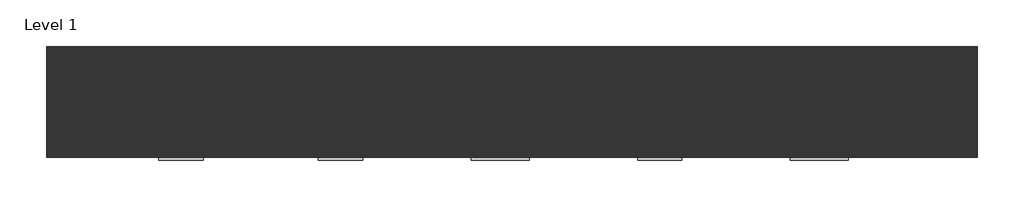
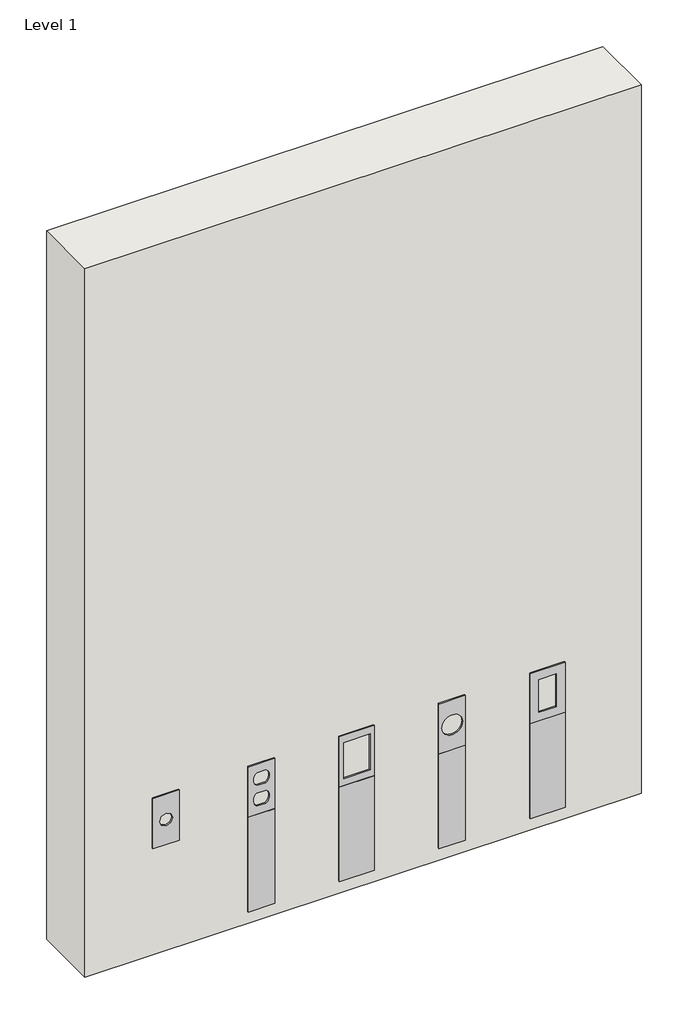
# One storey: 5 proxies, 1 wall.
"""IFC4 building model written with IfcOpenShell, lengths in millimetres."""

from ifc_helpers import new_model, si_unit, origin, origin_with_axes, place, context, project, spatial, polyline, outline, extrude, transform, mapped, element, save
from components import electrical_fixtures_99e873c0, electrical_fixtures_63e19a40, electrical_fixtures_1117c885, electrical_fixtures_fe14b728, electrical_fixtures_a7cb0436

model = new_model("IFC4")

# Units and contexts
model_context = context("Model", 3, world=origin())
ifc_project = project(units=[si_unit("LENGTHUNIT", "METRE", prefix="MILLI")], contexts=[model_context])

# Site, building, storey
site = spatial("IfcSite", under=ifc_project)
building = spatial("IfcBuilding", under=site)
storey = spatial("IfcBuildingStorey", under=building, Name="Level 1", Elevation=0.0)

# Proxies
placement = place(None, origin())
electrical_fixtures_shape = electrical_fixtures_99e873c0(model_context)
element("IfcBuildingElementProxy", 1, Name="Accessory-Wiremold-Receptacle_Cover : 30TP-B", ObjectType="Accessory-Wiremold-Receptacle_Cover : 30TP-B", at=placement, inside=storey, context=model_context, shape_type="MappedRepresentation", body=[
    mapped(electrical_fixtures_shape, transform((3262.3055981, 1994.0840466, 0.0), x_axis=(1.0, 0.0, 0.0), y_axis=(0.0, 1.0, 0.0), z_axis=(0.0, 0.0, 1.0))),
])
electrical_fixtures_2_shape = electrical_fixtures_63e19a40(model_context)
element("IfcBuildingElementProxy", 2, Name="Accessory-Wiremold-Receptacle_Cover : 30TP-A", ObjectType="Accessory-Wiremold-Receptacle_Cover : 30TP-A", at=placement, inside=storey, context=model_context, shape_type="MappedRepresentation", body=[
    mapped(electrical_fixtures_2_shape, transform((3079.4255981, 1994.0840466, 0.0), x_axis=(1.0, 0.0, 0.0), y_axis=(0.0, 1.0, 0.0), z_axis=(0.0, 0.0, 1.0))),
])
electrical_fixtures_3_shape = electrical_fixtures_1117c885(model_context)
element("IfcBuildingElementProxy", 3, Name="Accessory-Wiremold-Receptacle_Cover : 30TP-C", ObjectType="Accessory-Wiremold-Receptacle_Cover : 30TP-C", at=placement, inside=storey, context=model_context, shape_type="MappedRepresentation", body=[
    mapped(electrical_fixtures_3_shape, transform((3445.1855981, 1994.0840466, 0.0), x_axis=(1.0, 0.0, 0.0), y_axis=(0.0, 1.0, 0.0), z_axis=(0.0, 0.0, 1.0))),
])
electrical_fixtures_4_shape = electrical_fixtures_fe14b728(model_context)
element("IfcBuildingElementProxy", 4, Name="Accessory-Wiremold-Receptacle_Cover : 30TP-J", ObjectType="Accessory-Wiremold-Receptacle_Cover : 30TP-J", at=placement, inside=storey, context=model_context, shape_type="MappedRepresentation", body=[
    mapped(electrical_fixtures_4_shape, transform((3628.0655981, 1994.0840466, 0.0), x_axis=(1.0, 0.0, 0.0), y_axis=(0.0, 1.0, 0.0), z_axis=(0.0, 0.0, 1.0))),
])
electrical_fixtures_5_shape = electrical_fixtures_a7cb0436(model_context)
element("IfcBuildingElementProxy", 5, Name="Accessory-Wiremold-Receptacle_Cover : 30TP-L", ObjectType="Accessory-Wiremold-Receptacle_Cover : 30TP-L", at=placement, inside=storey, context=model_context, shape_type="MappedRepresentation", body=[
    mapped(electrical_fixtures_5_shape, transform((3810.9455981, 1994.0840466, 0.0), x_axis=(1.0, 0.0, 0.0), y_axis=(0.0, 1.0, 0.0), z_axis=(0.0, 0.0, 1.0))),
])

# Wall
element("IfcWall", 6, ObjectType="Generic - 5\"", at=placement, inside=storey, context=model_context, shape_type="SweptSolid", body=[
    extrude(outline(polyline([(3992.1973575, 1995.6715466), (2925.3973575, 1995.6715466), (2925.3973575, 2122.6715466), (3992.1973575, 2122.6715466), (3992.1973575, 1995.6715466)])), origin_with_axes(), (0.0, 0.0, 1.0), 1436.4555035),
])

save(model, "model.ifc")
